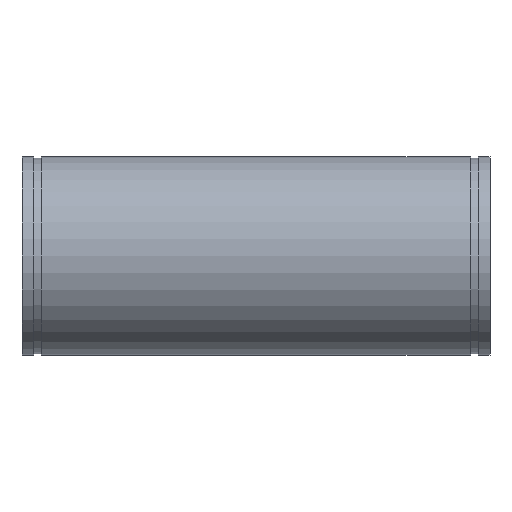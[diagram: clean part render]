
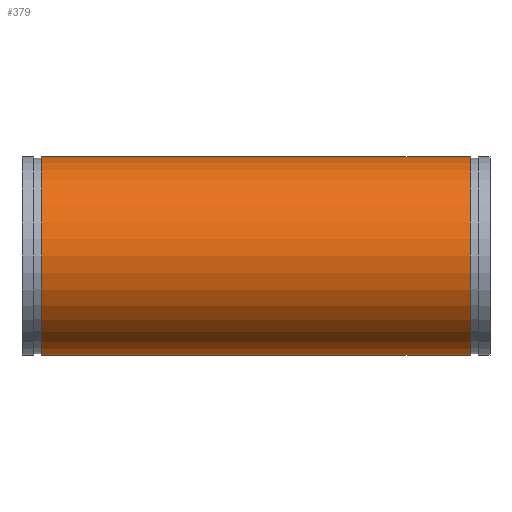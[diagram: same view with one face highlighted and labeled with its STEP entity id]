
A CAD part, left-side view. The second image highlights one B-rep face of the part: STEP entity #379.
In plain terms, the highlighted cylindrical face has radius 161.925 mm (diameter 323.85 mm), a full revolution.
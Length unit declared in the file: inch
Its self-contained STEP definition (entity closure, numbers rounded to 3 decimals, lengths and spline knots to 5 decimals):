
#45=ELLIPSE('',#439,16.65868,6.375);
#46=ELLIPSE('',#440,16.65868,6.375);
#47=ELLIPSE('',#441,6.90025,6.375);
#57=LINE('',#676,#68);
#68=VECTOR('',#544,6.375);
#79=CYLINDRICAL_SURFACE('',#438,6.375);
#90=FACE_BOUND('',#131,.T.);
#105=FACE_OUTER_BOUND('',#130,.T.);
#130=EDGE_LOOP('',(#292,#293,#294,#295));
#131=EDGE_LOOP('',(#296,#297,#298));
#154=CIRCLE('',#426,6.375);
#155=CIRCLE('',#428,6.375);
#181=VERTEX_POINT('',#653);
#182=VERTEX_POINT('',#656);
#189=VERTEX_POINT('',#677);
#190=VERTEX_POINT('',#678);
#191=VERTEX_POINT('',#680);
#218=EDGE_CURVE('',#181,#181,#154,.T.);
#219=EDGE_CURVE('',#182,#182,#155,.T.);
#228=EDGE_CURVE('',#181,#182,#57,.T.);
#229=EDGE_CURVE('',#189,#190,#45,.T.);
#230=EDGE_CURVE('',#190,#191,#46,.T.);
#231=EDGE_CURVE('',#191,#189,#47,.T.);
#292=ORIENTED_EDGE('',*,*,#218,.T.);
#293=ORIENTED_EDGE('',*,*,#228,.T.);
#294=ORIENTED_EDGE('',*,*,#219,.T.);
#295=ORIENTED_EDGE('',*,*,#228,.F.);
#296=ORIENTED_EDGE('',*,*,#229,.T.);
#297=ORIENTED_EDGE('',*,*,#230,.T.);
#298=ORIENTED_EDGE('',*,*,#231,.T.);
#379=ADVANCED_FACE('',(#105,#90),#79,.T.);
#426=AXIS2_PLACEMENT_3D('',#654,#516,#517);
#428=AXIS2_PLACEMENT_3D('',#657,#520,#521);
#438=AXIS2_PLACEMENT_3D('',#675,#542,#543);
#439=AXIS2_PLACEMENT_3D('',#679,#545,#546);
#440=AXIS2_PLACEMENT_3D('',#681,#547,#548);
#441=AXIS2_PLACEMENT_3D('',#682,#549,#550);
#516=DIRECTION('center_axis',(0.,1.,0.));
#517=DIRECTION('ref_axis',(1.,0.,0.));
#520=DIRECTION('center_axis',(0.,-1.,0.));
#521=DIRECTION('ref_axis',(1.,0.,0.));
#542=DIRECTION('center_axis',(0.,-1.,0.));
#543=DIRECTION('ref_axis',(1.,0.,0.));
#544=DIRECTION('',(0.,1.,0.));
#545=DIRECTION('center_axis',(-0.924,0.383,0.));
#546=DIRECTION('ref_axis',(-0.383,-0.924,0.));
#547=DIRECTION('center_axis',(-0.924,0.383,0.));
#548=DIRECTION('ref_axis',(-0.383,-0.924,0.));
#549=DIRECTION('center_axis',(-0.383,-0.924,0.));
#550=DIRECTION('ref_axis',(0.924,-0.383,0.));
#653=CARTESIAN_POINT('',(-6.375,-5.75,0.));
#654=CARTESIAN_POINT('Origin',(0.,-5.75,0.));
#656=CARTESIAN_POINT('',(-6.375,21.75,0.));
#657=CARTESIAN_POINT('Origin',(0.,21.75,0.));
#675=CARTESIAN_POINT('Origin',(0.,23.,0.));
#676=CARTESIAN_POINT('',(-6.375,23.,0.));
#677=CARTESIAN_POINT('',(0.,0.,6.375));
#678=CARTESIAN_POINT('',(6.375,15.39061,0.));
#679=CARTESIAN_POINT('Origin',(0.,0.,0.));
#680=CARTESIAN_POINT('',(0.,0.,-6.375));
#681=CARTESIAN_POINT('Origin',(0.,0.,0.));
#682=CARTESIAN_POINT('Origin',(0.,0.,0.));
